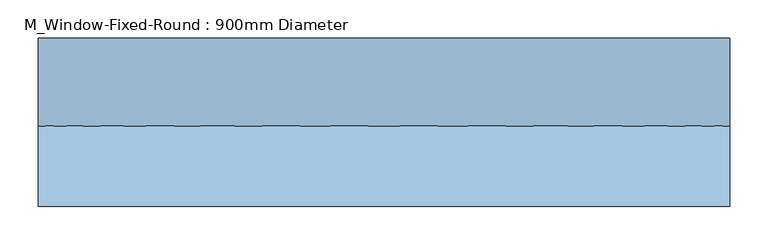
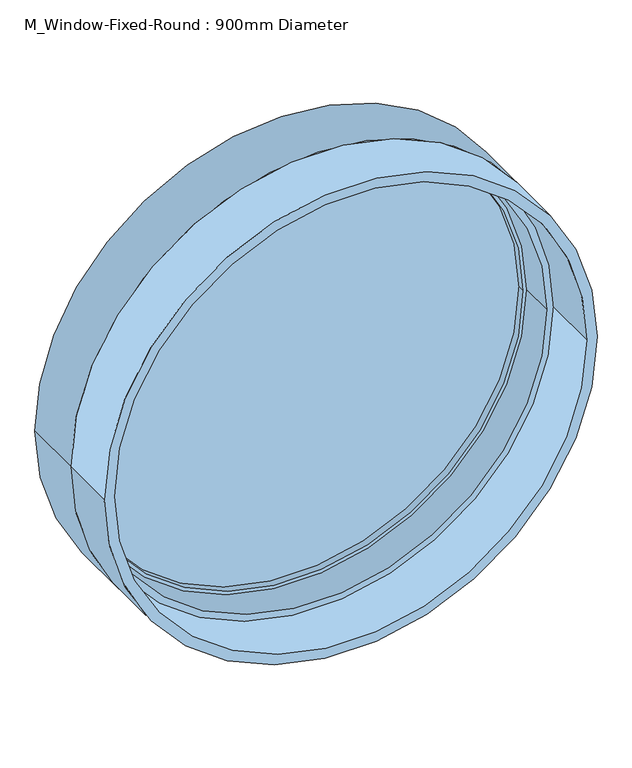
"""IFC4 building model written with IfcOpenShell, lengths in millimetres: window geometry, M_Window-Fixed-Round : 900mm Diameter."""

from ifc_helpers import new_model, si_unit, point, frame, frame_2d, origin, place, context, project, spatial, polyline, circle_curve, trimmed, segment, composite_curve, outline, extrude, source, transform, mapped, element, save
from ifc_brep_helpers import plane_surface, cylinder_surface, revolved_surface, advanced_brep


def m_window_fixed_round_900mm_diameter_9c349561(model_context):
    return source(origin(), model_context, "Body", "SolidModel", [
        extrude(outline(composite_curve([segment(trimmed(circle_curve(frame_2d((1350.0, 0.0)), 437.3), [point((1350.0, 437.3))], [point((1350.0, -437.3))], False, "CARTESIAN"), True, "CONTINUOUS"), segment(trimmed(circle_curve(frame_2d((1350.0, 0.0)), 437.3), [point((1350.0, -437.3))], [point((1350.0, 437.3))], False, "CARTESIAN"), True, "CONTINUOUS")], self_intersect=False), holes=[composite_curve([segment(trimmed(circle_curve(frame_2d((1350.0, 0.0)), 411.9), [point((1350.0, -411.9))], [point((1350.0, 411.9))], True, "CARTESIAN"), True, "CONTINUOUS"), segment(trimmed(circle_curve(frame_2d((1350.0, 0.0)), 411.9), [point((1350.0, 411.9))], [point((1350.0, -411.9))], True, "CARTESIAN"), True, "CONTINUOUS")], self_intersect=False)]), frame((0.0, 68.25, 0.0), z_axis=(0.0, 1.0, 0.0), x_axis=(0.0, 0.0, 1.0)), (0.0, 0.0, 1.0), 31.75),
        extrude(outline(composite_curve([segment(trimmed(circle_curve(frame_2d((1350.0, 0.0)), 411.9), [point((1350.0, 411.9))], [point((1350.0, -411.9))], False, "CARTESIAN"), True, "CONTINUOUS"), segment(trimmed(circle_curve(frame_2d((1350.0, 0.0)), 411.9), [point((1350.0, -411.9))], [point((1350.0, 411.9))], False, "CARTESIAN"), True, "CONTINUOUS")], self_intersect=False)), frame((0.0, 80.95, 0.0), z_axis=(0.0, 1.0, 0.0), x_axis=(0.0, 0.0, 1.0)), (0.0, 0.0, 1.0), 6.35),
        extrude(outline(composite_curve([segment(trimmed(circle_curve(frame_2d((1350.0, 0.0)), 450.0), [point((1350.0, 450.0))], [point((1350.0, -450.0))], False, "CARTESIAN"), True, "CONTINUOUS"), segment(trimmed(circle_curve(frame_2d((1350.0, 0.0)), 450.0), [point((1350.0, -450.0))], [point((1350.0, 450.0))], False, "CARTESIAN"), True, "CONTINUOUS")], self_intersect=False), holes=[composite_curve([segment(trimmed(circle_curve(frame_2d((1350.0, 0.0)), 430.95), [point((1350.0, -430.95))], [point((1350.0, 430.95))], True, "CARTESIAN"), True, "CONTINUOUS"), segment(trimmed(circle_curve(frame_2d((1350.0, 0.0)), 430.95), [point((1350.0, 430.95))], [point((1350.0, -430.95))], True, "CARTESIAN"), True, "CONTINUOUS")], self_intersect=False)]), frame((0.0, -100.0, 0.0), z_axis=(0.0, 1.0, 0.0), x_axis=(0.0, 0.0, 1.0)), (0.0, 0.0, 1.0), 104.75),
        advanced_brep(
        [(-437.3, 68.25, 1350.0), (437.3, 68.25, 1350.0), (437.3, 119.05, 1350.0), (-437.3, 119.05, 1350.0), (-450.0, 119.05, 1350.0), (450.0, 119.05, 1350.0), (418.25, 68.25, 1350.0), (-418.25, 68.25, 1350.0), (-418.25, 4.75, 1350.0), (418.25, 4.75, 1350.0), (450.0, 4.75, 1350.0), (-450.0, 4.75, 1350.0)],
        [
            (0, 1, circle_curve(frame((0.0, 68.25, 1350.0), z_axis=(0.0, -1.0, 0.0), x_axis=(1.0, 0.0, 0.0)), 437.3)),
            (1, 2),
            (2, 3, circle_curve(frame((0.0, 119.05, 1350.0), z_axis=(0.0, 1.0, 0.0), x_axis=(1.0, 0.0, 0.0)), 437.3)),
            (3, 0),
            (1, 0, circle_curve(frame((0.0, 68.25, 1350.0), z_axis=(0.0, -1.0, 0.0), x_axis=(-1.0, 0.0, 0.0)), 437.3)),
            (3, 2, circle_curve(frame((0.0, 119.05, 1350.0), z_axis=(0.0, 1.0, 0.0), x_axis=(-1.0, 0.0, 0.0)), 437.3)),
            (4, 5, circle_curve(frame((0.0, 119.05, 1350.0), z_axis=(0.0, 1.0, 0.0), x_axis=(-1.0, 0.0, 0.0)), 450.0)),
            (5, 4, circle_curve(frame((0.0, 119.05, 1350.0), z_axis=(0.0, 1.0, 0.0), x_axis=(1.0, 0.0, 0.0)), 450.0)),
            (6, 7, circle_curve(frame((0.0, 68.25, 1350.0), z_axis=(0.0, -1.0, 0.0), x_axis=(-1.0, 0.0, 0.0)), 418.25)),
            (7, 6, circle_curve(frame((0.0, 68.25, 1350.0), z_axis=(0.0, -1.0, 0.0), x_axis=(1.0, 0.0, 0.0)), 418.25)),
            (8, 9, circle_curve(frame((0.0, 4.75, 1350.0), z_axis=(0.0, -1.0, 0.0), x_axis=(1.0, 0.0, 0.0)), 418.25)),
            (9, 6),
            (7, 8),
            (5, 10),
            (10, 11, circle_curve(frame((0.0, 4.75, 1350.0), z_axis=(0.0, 1.0, 0.0), x_axis=(1.0, 0.0, 0.0)), 450.0)),
            (11, 4),
            (9, 8, circle_curve(frame((0.0, 4.75, 1350.0), z_axis=(0.0, -1.0, 0.0), x_axis=(-1.0, 0.0, 0.0)), 418.25)),
            (10, 11, circle_curve(frame((0.0, 4.75, 1350.0), z_axis=(0.0, -1.0, 0.0), x_axis=(-1.0, 0.0, 0.0)), 450.0)),
        ],
        [
            revolved_surface(polyline([(437.3, 119.05, 1350.0), (437.3, 68.25, 1350.0)]), (0.0, 112.7, 1350.0), (0.0, 1.0, 0.0)),
            revolved_surface(polyline([(-437.3, 119.05, 1350.0), (-437.3, 68.25, 1350.0)]), (0.0, 112.7, 1350.0), (0.0, 1.0, 0.0)),
            plane_surface(frame((0.0, 119.05, 1350.0), z_axis=(0.0, 1.0, 0.0), x_axis=(-1.0, 0.0, 0.0))),
            plane_surface(frame((0.0, 68.25, 1350.0), z_axis=(0.0, 1.0, 0.0), x_axis=(-1.0, 0.0, 0.0))),
            revolved_surface(polyline([(418.25, 68.25, 1350.0), (418.25, 4.75, 1350.0)]), (0.0, 112.7, 1350.0), (0.0, 1.0, 0.0)),
            cylinder_surface(frame((0.0, 112.7, 1350.0), z_axis=(0.0, 1.0, 0.0), x_axis=(1.0, 0.0, 0.0)), 450.0),
            revolved_surface(polyline([(-418.25, 68.25, 1350.0), (-418.25, 4.75, 1350.0)]), (0.0, 112.7, 1350.0), (0.0, 1.0, 0.0)),
            plane_surface(frame((0.0, 4.75, 1350.0), z_axis=(0.0, -1.0, 0.0), x_axis=(-1.0, 0.0, 0.0))),
            cylinder_surface(frame((0.0, 112.7, 1350.0), z_axis=(0.0, 1.0, 0.0), x_axis=(-1.0, 0.0, 0.0)), 450.0),
        ],
        [
            (0, [[1, 2, 3, 4]]),
            (1, [[5, -4, 6, -2]]),
            (2, [[7, 8], [-6, -3]]),
            (3, [[-5, -1], [9, 10]]),
            (4, [[11, 12, -10, 13]]),
            (5, [[-8, 14, 15, 16]]),
            (6, [[17, -13, -9, -12]]),
            (7, [[18, -15], [-17, -11]]),
            (8, [[-7, -16, -18, -14]]),
        ],
    ),
        extrude(outline(composite_curve([segment(trimmed(circle_curve(frame_2d((1350.0, 0.0)), 411.9), [point((1350.0, 411.9))], [point((1350.0, -411.9))], False, "CARTESIAN"), True, "CONTINUOUS"), segment(trimmed(circle_curve(frame_2d((1350.0, 0.0)), 411.9), [point((1350.0, -411.9))], [point((1350.0, 411.9))], False, "CARTESIAN"), True, "CONTINUOUS")], self_intersect=False)), frame((0.0, 93.65, 0.0), z_axis=(0.0, 1.0, 0.0), x_axis=(0.0, 0.0, 1.0)), (0.0, 0.0, 1.0), 6.35),
        extrude(outline(composite_curve([segment(trimmed(circle_curve(frame_2d((1350.0, 0.0)), 437.3), [point((1350.0, 437.3))], [point((1350.0, -437.3))], False, "CARTESIAN"), True, "CONTINUOUS"), segment(trimmed(circle_curve(frame_2d((1350.0, 0.0)), 437.3), [point((1350.0, -437.3))], [point((1350.0, 437.3))], False, "CARTESIAN"), True, "CONTINUOUS")], self_intersect=False), holes=[composite_curve([segment(trimmed(circle_curve(frame_2d((1350.0, 0.0)), 411.9), [point((1350.0, -411.9))], [point((1350.0, 411.9))], True, "CARTESIAN"), True, "CONTINUOUS"), segment(trimmed(circle_curve(frame_2d((1350.0, 0.0)), 411.9), [point((1350.0, 411.9))], [point((1350.0, -411.9))], True, "CARTESIAN"), True, "CONTINUOUS")], self_intersect=False)]), frame((0.0, 100.0, 0.0), z_axis=(0.0, 1.0, 0.0), x_axis=(0.0, 0.0, 1.0)), (0.0, 0.0, 1.0), 12.7),
    ])


if __name__ == "__main__":
    model = new_model("IFC4")
    model_context = context("Model", 3, world=origin())
    ifc_project = project(units=[si_unit("LENGTHUNIT", "METRE", prefix="MILLI")], contexts=[model_context])
    site = spatial("IfcSite", under=ifc_project)
    building = spatial("IfcBuilding", under=site)
    placement = place(None, origin())
    m_window_fixed_round_900mm_diameter_shape = m_window_fixed_round_900mm_diameter_9c349561(model_context)
    element("IfcWindow", 1, ObjectType="M_Window-Fixed-Round : 900mm Diameter", at=placement, inside=building, context=model_context, shape_type="MappedRepresentation", body=[
        mapped(m_window_fixed_round_900mm_diameter_shape, transform((0.0, 0.0, 0.0), x_axis=(1.0, 0.0, 0.0), y_axis=(0.0, 1.0, 0.0), z_axis=(0.0, 0.0, 1.0))),
    ])
    save(model, "model.ifc")
